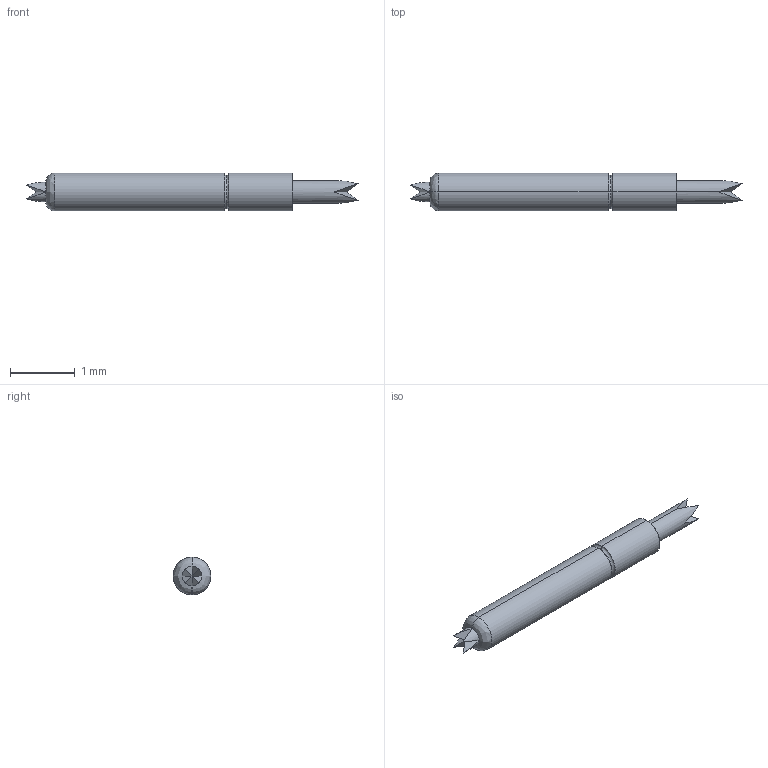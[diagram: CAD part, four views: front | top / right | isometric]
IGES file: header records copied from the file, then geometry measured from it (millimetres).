
Start section: SolidWorks IGES file using analytic representation for surfaces
Global section: file name: Z:\probe solid model mockups\Solidworks models\IGES Files\CSP8-15 IGES files\CSP8-15LL Full.IGS; native system: SolidWorks 2006 by SolidWorks Corporation; preprocessor: SolidWorks 2006 by SolidWorks Corporation; author: tsakatani; date: 080108.152234; units: inch
Bounding box: 5.13 x 0.58 x 0.58 mm (x, y, z)
Surface area: 8.9 mm2 (no closed solid volume)
Topology: 0 solids, 0 shells, 38 faces, 210 edges, 210 vertices
Faces by surface type: bspline 23, revolution 15
